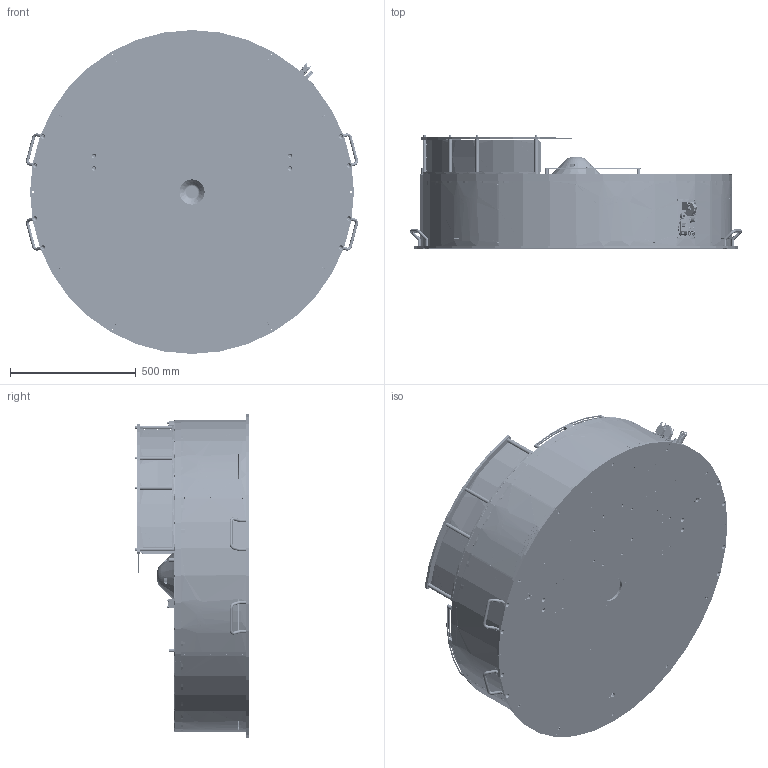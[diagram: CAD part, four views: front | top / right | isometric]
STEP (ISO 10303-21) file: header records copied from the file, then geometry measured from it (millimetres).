
FILE_DESCRIPTION (( 'STEP AP214' ), '1' );
FILE_NAME ('GM000773_STEP.STEP', '2023-05-24T14:29:23', ( '' ), ( '' ), 'SwSTEP 2.0', 'SolidWorks 2022', '' );
FILE_SCHEMA (( 'AUTOMOTIVE_DESIGN' ));
Length unit declared in the file: millimetre
Products named in the file (60): PD003266; CM000008_004; CE000419; CM000686_001; PD003244; CM000006; PD001360_FB500; PD003259; PD003249; CM000166; PD003258_003; CM000027; CE000420; PD003262; PD003273; CM000008; PD003268; PD003222; PD004854; PD003274; PD003269; CE000013; PD003256; PD003261; PD003258; CM000026; PD003221; PD003258_002; CM000686; PD003219; PD003267; CM000025; CE000316; CE000418; PD003220; PD001122; CM000008_003; CM000024; PD003263; CM000008_002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
Assembly tree (126 placements, depth 3):
  GM000773_STEP
    CM000166  x8
    CM000027  x4
    CM000051  x4
    CM000024  x10
    CM000026  x10
    CM000025  x4
    CM000043  x2
    PD003218
    PD003222  x10
    PD003219
    PD003221  x2
    PD003220
    PD003244
    PD003248  x2
    PD003249
    PD003256
    PD003258
      PD003258_001
      PD003258_002
      PD003258_003
    CM000006  x4
    PD001360_FB500
    CE000007
    CE000013  x2
    CE000005
    CM000008
      CM000008_001
      CM000008_003  x2
      CM000008_002
      CM000008_004
      CM000008_005
    CE000316
    CM000686
      CM000686_001
      CM000686_002
    CE000276
    CE000420
    CE000419
    CE000418
    CE000421
    PD003259  x2
    PD003261
    PD003265  x2
    PD003266  x4
    PD003267  x2
    PD000043  x4
    PD003268
    PD003263
    PD003272  x4
    PD003269
    PD003317
    PD001119  x2
    PD001124
    PD001122
    CM000001  x4
    PD003273
    PD003274
    PD003262
    PD004854
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Bounding box: 1322.61 x 451 x 1290 mm (x, y, z)
Volume: 36117233.3 mm3; surface area: 12316719.1 mm2
Topology: 126 solids, 145 shells, 12092 faces, 32366 edges, 20855 vertices
Faces by surface type: plane 5256, cylinder 3614, bspline 1736, cone 1117, torus 310, sphere 59
Entity records: 562280 total; most frequent: CARTESIAN_POINT 267704, ORIENTED_EDGE 56556, DIRECTION 44491, EDGE_CURVE 28480, VERTEX_POINT 18605, AXIS2_PLACEMENT_3D 16316, EDGE_LOOP 12348, VECTOR 11859
